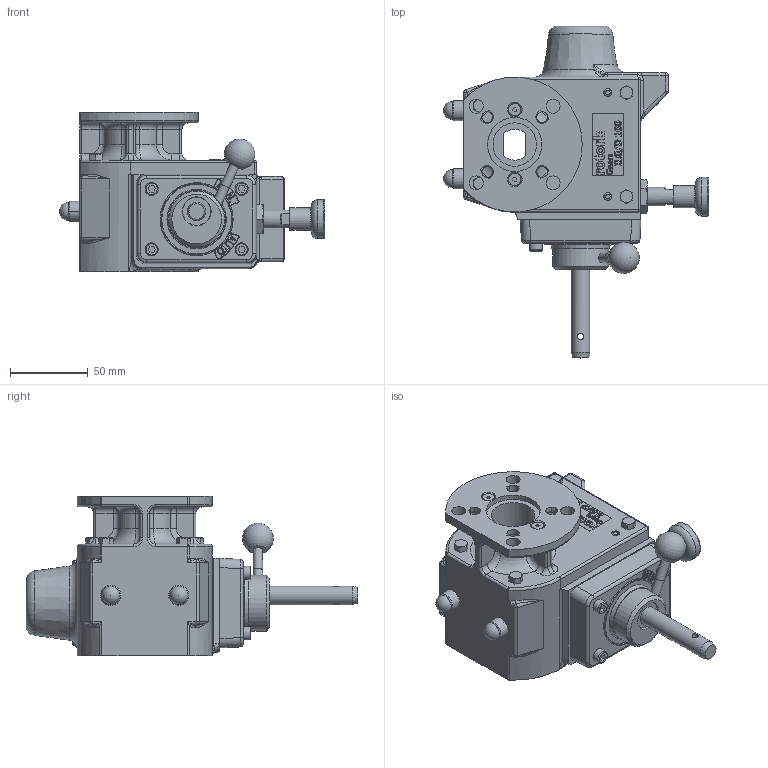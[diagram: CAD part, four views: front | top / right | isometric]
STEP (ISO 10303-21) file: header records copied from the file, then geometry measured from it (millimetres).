
FILE_DESCRIPTION( ( '' ), '1' );
FILE_NAME( 'M:/Current Drawings/Internet datasheets/4 - STEP/ILGD100 .stp', '2014-10-03T10:16:34', ( 'Robbin Goosen' ), ( 'Rotork Gears' ), 'PSStep 16.0.42', 'Solid Edge ', ' ' );
FILE_SCHEMA( ( 'AUTOMOTIVE_DESIGN { 1 0 10303 214 1 1 1 1 }' ) );
Length unit declared in the file: millimetre
Products named in the file (1): 1
Bounding box: 171 x 214 x 103 mm (x, y, z)
Volume: 676807.4 mm3; surface area: 164756.8 mm2
Topology: 1 solids, 38 shells, 1756 faces, 4296 edges, 2549 vertices
Faces by surface type: plane 541, cylinder 523, bspline 269, cone 164, torus 121, sphere 103, extrusion 35
Full cylindrical faces by diameter (mm): 3.242 x4, 4 x4, 4.1 x1, 4.134 x12, 4.5 x2, 4.917 x15, 5 x12, 6 x3, 6.5 x8, 6.647 x8, 7 x8, 8 x3, 8.5 x4, 9 x4, 10.376 x1, 12 x7, 13 x2, 14.5 x2, 18 x1, 24 x1, 25 x1, 28 x1, 31 x1, 32.1 x1, 33.1 x1, 33.5 x1, 34 x1, 35 x4, 36 x7, 36.9 x1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
Entity records: 93598 total; most frequent: CARTESIAN_POINT 43184, ORIENTED_EDGE 7580, DIRECTION 7056, EDGE_CURVE 3790, AXIS2_PLACEMENT_3D 2943, VERTEX_POINT 2428, EDGE_LOOP 2112, FACE_OUTER_BOUND 1916
